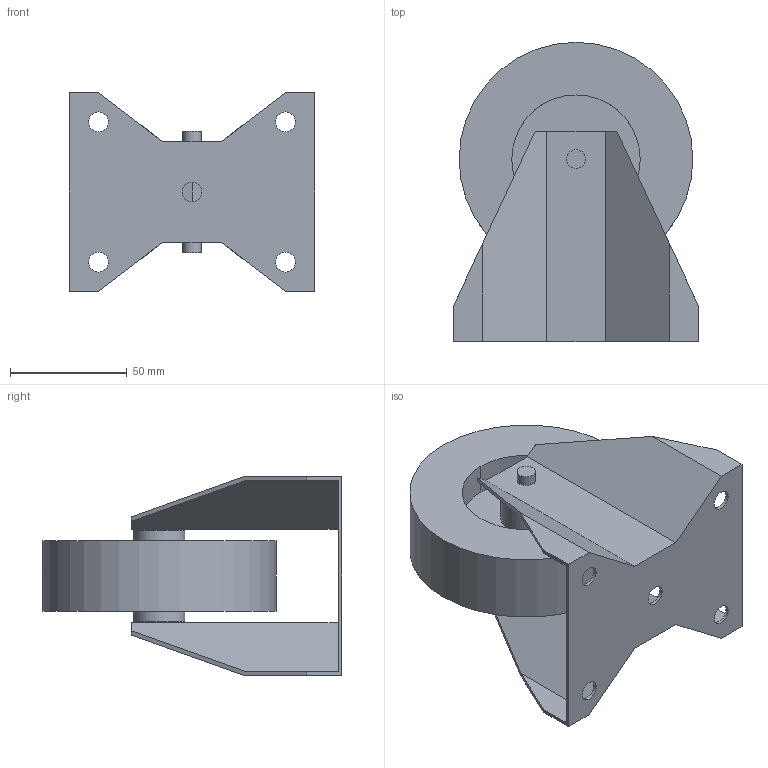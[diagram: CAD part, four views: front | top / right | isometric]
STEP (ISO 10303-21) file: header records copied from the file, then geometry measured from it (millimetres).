
FILE_DESCRIPTION((''),'2;1');
FILE_NAME('RUF100N_ASM','2002-12-27T',('Lipro doo'),('Lipro d.o.o.'),'PRO/ENGINEER BY PARAMETRIC TECHNOLOGY CORPORATION, 2001150','PRO/ENGINEER BY PARAMETRIC TECHNOLOGY CORPORATION, 2001150','');
FILE_SCHEMA(('CONFIG_CONTROL_DESIGN'));
Length unit declared in the file: millimetre
Products named in the file (3): RUF100N_2; RUF100N_1; RUF100N_ASM
Assembly tree (2 placements, depth 2):
  RUF100N_ASM
    RUF100N_2
    RUF100N_1
Bounding box: 105 x 128 x 85 mm (x, y, z)
Volume: 218227.7 mm3; surface area: 77140 mm2
Topology: 2 solids, 2 shells, 66 faces, 168 edges, 112 vertices
Faces by surface type: plane 38, cylinder 28
Entity records: 2129 total; most frequent: DIRECTION 366, CARTESIAN_POINT 351, ORIENTED_EDGE 336, EDGE_CURVE 168, AXIS2_PLACEMENT_3D 127, VECTOR 112, LINE 112, VERTEX_POINT 112
